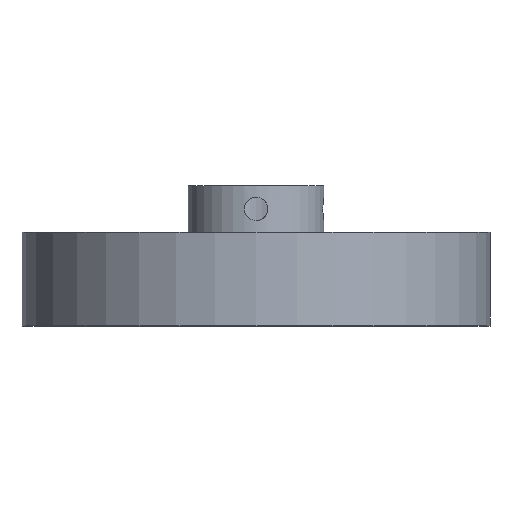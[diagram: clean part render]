
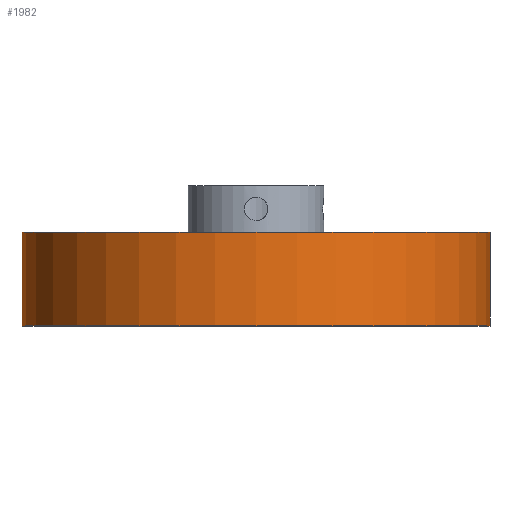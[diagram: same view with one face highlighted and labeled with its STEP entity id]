
A CAD part, top view. The second image highlights one B-rep face of the part: STEP entity #1982.
In plain terms, the highlighted cylindrical face has radius 63.5 mm (diameter 127 mm), a full revolution.
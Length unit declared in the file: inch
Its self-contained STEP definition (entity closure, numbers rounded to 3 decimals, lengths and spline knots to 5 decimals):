
#270=FACE_OUTER_BOUND('',#364,.T.);
#364=EDGE_LOOP('',(#1623,#1624,#1625,#1626));
#550=LINE('',#3317,#696);
#696=VECTOR('',#2771,2.5);
#815=CIRCLE('',#2212,2.5);
#816=CIRCLE('',#2213,2.5);
#991=VERTEX_POINT('',#3314);
#992=VERTEX_POINT('',#3316);
#1262=EDGE_CURVE('',#991,#991,#815,.T.);
#1263=EDGE_CURVE('',#991,#992,#550,.T.);
#1264=EDGE_CURVE('',#992,#992,#816,.T.);
#1623=ORIENTED_EDGE('',*,*,#1262,.F.);
#1624=ORIENTED_EDGE('',*,*,#1263,.T.);
#1625=ORIENTED_EDGE('',*,*,#1264,.T.);
#1626=ORIENTED_EDGE('',*,*,#1263,.F.);
#1892=CYLINDRICAL_SURFACE('',#2211,2.5);
#1982=ADVANCED_FACE('',(#270),#1892,.T.);
#2211=AXIS2_PLACEMENT_3D('',#3313,#2767,#2768);
#2212=AXIS2_PLACEMENT_3D('',#3315,#2769,#2770);
#2213=AXIS2_PLACEMENT_3D('',#3318,#2772,#2773);
#2767=DIRECTION('center_axis',(0.,1.,0.));
#2768=DIRECTION('ref_axis',(-1.,0.,0.));
#2769=DIRECTION('center_axis',(0.,1.,0.));
#2770=DIRECTION('ref_axis',(-1.,0.,0.));
#2771=DIRECTION('',(0.,-1.,0.));
#2772=DIRECTION('center_axis',(0.,1.,0.));
#2773=DIRECTION('ref_axis',(-1.,0.,0.));
#3313=CARTESIAN_POINT('Origin',(0.,0.,0.));
#3314=CARTESIAN_POINT('',(2.5,1.,0.));
#3315=CARTESIAN_POINT('Origin',(0.,1.,0.));
#3316=CARTESIAN_POINT('',(2.5,0.,0.));
#3317=CARTESIAN_POINT('',(2.5,0.,0.));
#3318=CARTESIAN_POINT('Origin',(0.,0.,0.));
